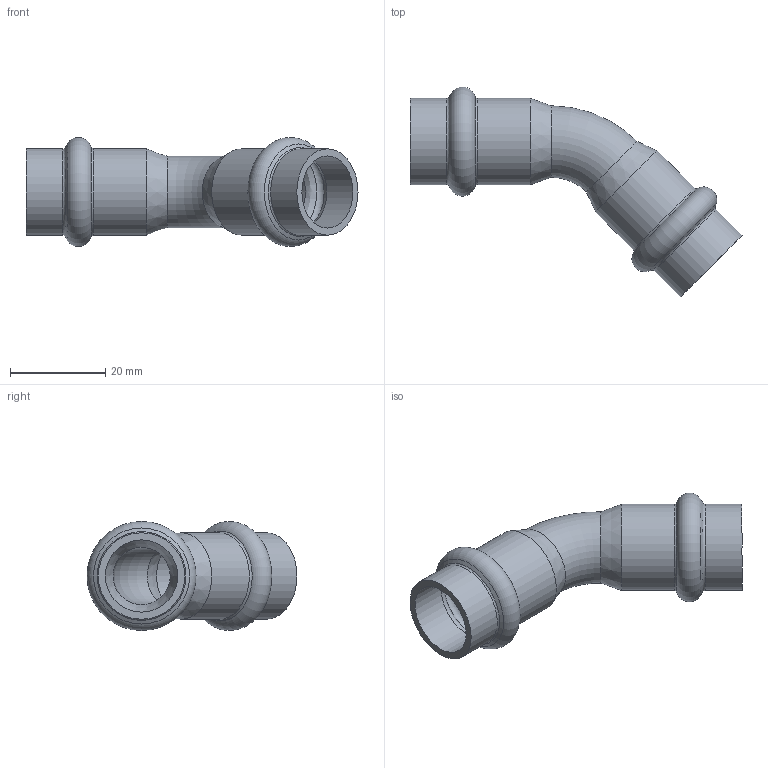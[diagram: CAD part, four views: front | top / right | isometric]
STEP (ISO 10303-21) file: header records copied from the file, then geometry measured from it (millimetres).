
FILE_DESCRIPTION((''),'2;1');
FILE_NAME('G:\Nirosan-Schmiedefeld\Technics\CAD\Bauteile VA\015\6904115(2).stp','2011-09-14T15:26:31',('herberg'),(''),'Autodesk Inventor 2009','Autodesk Inventor 2009','');
FILE_SCHEMA(('AUTOMOTIVE_DESIGN { 1 0 10303 214 1 1 1 1 }'));
Length unit declared in the file: millimetre
Products named in the file (1): 6904115(2)
Bounding box: 69.66 x 44.06 x 22.9 mm (x, y, z)
Volume: 6048.2 mm3; surface area: 8221 mm2
Topology: 1 solids, 1 shells, 32 faces, 66 edges, 36 vertices
Faces by surface type: cone 8, cylinder 8, bspline 8, torus 6, plane 2
Full cylindrical faces by diameter (mm): 15.15 x4, 18.15 x4
Entity records: 1202 total; most frequent: CARTESIAN_POINT 663, DIRECTION 110, ORIENTED_EDGE 64, EDGE_LOOP 64, AXIS2_PLACEMENT_3D 55, VERTEX_POINT 32, EDGE_CURVE 32, FACE_OUTER_BOUND 32
